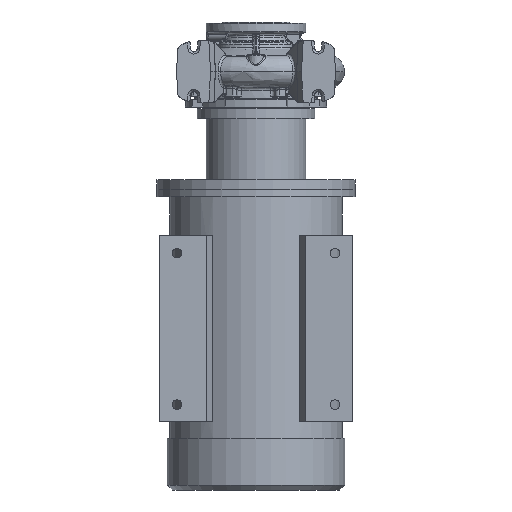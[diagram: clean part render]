
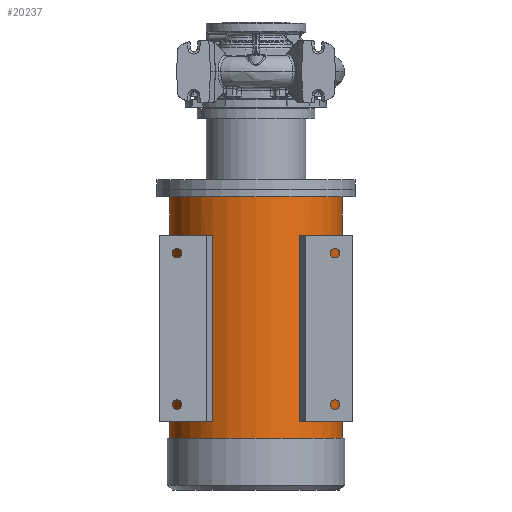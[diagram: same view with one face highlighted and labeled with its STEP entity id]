
A CAD part, front view. The second image highlights one B-rep face of the part: STEP entity #20237.
In plain terms, the highlighted cylindrical face has radius 173.5 mm (diameter 347 mm), a partial arc.
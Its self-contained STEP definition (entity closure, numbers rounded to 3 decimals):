
#280 = DIRECTION ( 'NONE',  ( 0., 0., -1. ) ) ;
#2923 = ORIENTED_EDGE ( 'NONE', *, *, #16908, .F. ) ;
#3602 = FACE_OUTER_BOUND ( 'NONE', #13058, .T. ) ;
#4266 = DIRECTION ( 'NONE',  ( 0., 0., 1. ) ) ;
#5671 = CARTESIAN_POINT ( 'NONE',  ( 0., 0., -252.3 ) ) ;
#6326 = EDGE_CURVE ( 'NONE', #52792, #50794, #20791, .T. ) ;
#8549 = LINE ( 'NONE', #58391, #39035 ) ;
#9665 = DIRECTION ( 'NONE',  ( 1., 0., 0. ) ) ;
#9723 = CARTESIAN_POINT ( 'NONE',  ( 173.5, 0., -252.3 ) ) ;
#9915 = DIRECTION ( 'NONE',  ( 1., 0., 0. ) ) ;
#10747 = CIRCLE ( 'NONE', #18892, 173.5 ) ;
#10784 = VERTEX_POINT ( 'NONE', #68697 ) ;
#13034 = DIRECTION ( 'NONE',  ( 0., 0., 1. ) ) ;
#13058 = EDGE_LOOP ( 'NONE', ( #47611, #42909, #36343, #55787 ) ) ;
#13985 = EDGE_CURVE ( 'NONE', #51670, #72460, #43267, .T. ) ;
#14445 = CARTESIAN_POINT ( 'NONE',  ( -173.5, 0., -842.3 ) ) ;
#14474 = ORIENTED_EDGE ( 'NONE', *, *, #49222, .F. ) ;
#14818 = ORIENTED_EDGE ( 'NONE', *, *, #32215, .T. ) ;
#15104 = VECTOR ( 'NONE', #69400, 1000. ) ;
#15593 = DIRECTION ( 'NONE',  ( 0., 0., 1. ) ) ;
#15949 = EDGE_LOOP ( 'NONE', ( #14474, #69525, #2923, #58532 ) ) ;
#16172 = DIRECTION ( 'NONE',  ( 0., 0., -1. ) ) ;
#16908 = EDGE_CURVE ( 'NONE', #50794, #10784, #36966, .T. ) ;
#17156 = DIRECTION ( 'NONE',  ( -1., 0., 0. ) ) ;
#17902 = CARTESIAN_POINT ( 'NONE',  ( 87.271, -149.953, -705.3 ) ) ;
#18892 = AXIS2_PLACEMENT_3D ( 'NONE', #36659, #25212, #58301 ) ;
#20237 = ADVANCED_FACE ( 'NONE', ( #3602, #33296, #57897 ), #23687, .T. ) ;
#20791 = CIRCLE ( 'NONE', #67014, 173.5 ) ;
#22668 = AXIS2_PLACEMENT_3D ( 'NONE', #61012, #4266, #27437 ) ;
#23687 = CYLINDRICAL_SURFACE ( 'NONE', #42607, 173.5 ) ;
#24730 = VERTEX_POINT ( 'NONE', #39772 ) ;
#24862 = LINE ( 'NONE', #14445, #72126 ) ;
#25212 = DIRECTION ( 'NONE',  ( 0., 0., 1. ) ) ;
#25485 = VERTEX_POINT ( 'NONE', #31464 ) ;
#26507 = CARTESIAN_POINT ( 'NONE',  ( 0., 0., -738.3 ) ) ;
#26620 = EDGE_LOOP ( 'NONE', ( #50871, #72171, #39384, #14818 ) ) ;
#26998 = DIRECTION ( 'NONE',  ( 0., 0., -1. ) ) ;
#27437 = DIRECTION ( 'NONE',  ( -1., 0., 0. ) ) ;
#27464 = DIRECTION ( 'NONE',  ( 0., 0., -1. ) ) ;
#28148 = CARTESIAN_POINT ( 'NONE',  ( 100.73, -141.265, -705.3 ) ) ;
#30337 = VERTEX_POINT ( 'NONE', #59364 ) ;
#30395 = EDGE_CURVE ( 'NONE', #59970, #51870, #43332, .T. ) ;
#30417 = CARTESIAN_POINT ( 'NONE',  ( 87.271, -149.953, -842.3 ) ) ;
#31399 = VECTOR ( 'NONE', #13034, 1000. ) ;
#31464 = CARTESIAN_POINT ( 'NONE',  ( 100.73, -141.265, -330.3 ) ) ;
#32215 = EDGE_CURVE ( 'NONE', #25485, #51870, #8549, .T. ) ;
#33296 = FACE_BOUND ( 'NONE', #26620, .T. ) ;
#33888 = CARTESIAN_POINT ( 'NONE',  ( 173.5, 0., -738.3 ) ) ;
#36264 = DIRECTION ( 'NONE',  ( 0., 0., -1. ) ) ;
#36343 = ORIENTED_EDGE ( 'NONE', *, *, #69074, .T. ) ;
#36659 = CARTESIAN_POINT ( 'NONE',  ( 0., 0., -330.3 ) ) ;
#36966 = LINE ( 'NONE', #42373, #15104 ) ;
#39035 = VECTOR ( 'NONE', #36264, 1000. ) ;
#39182 = EDGE_CURVE ( 'NONE', #59970, #24730, #69959, .T. ) ;
#39384 = ORIENTED_EDGE ( 'NONE', *, *, #71041, .T. ) ;
#39772 = CARTESIAN_POINT ( 'NONE',  ( 87.271, -149.953, -330.3 ) ) ;
#42373 = CARTESIAN_POINT ( 'NONE',  ( -100.73, -141.265, -842.3 ) ) ;
#42607 = AXIS2_PLACEMENT_3D ( 'NONE', #47181, #48693, #54620 ) ;
#42840 = DIRECTION ( 'NONE',  ( -1., 0., 0. ) ) ;
#42909 = ORIENTED_EDGE ( 'NONE', *, *, #13985, .T. ) ;
#43267 = CIRCLE ( 'NONE', #60611, 173.5 ) ;
#43280 = EDGE_CURVE ( 'NONE', #30337, #10784, #51219, .T. ) ;
#43332 = CIRCLE ( 'NONE', #22668, 173.5 ) ;
#47181 = CARTESIAN_POINT ( 'NONE',  ( 0., 0., -842.3 ) ) ;
#47308 = VERTEX_POINT ( 'NONE', #33888 ) ;
#47611 = ORIENTED_EDGE ( 'NONE', *, *, #57624, .F. ) ;
#47844 = VECTOR ( 'NONE', #15593, 1000. ) ;
#48056 = AXIS2_PLACEMENT_3D ( 'NONE', #55637, #27464, #9915 ) ;
#48693 = DIRECTION ( 'NONE',  ( 0., 0., -1. ) ) ;
#49013 = CARTESIAN_POINT ( 'NONE',  ( 0., 0., -330.3 ) ) ;
#49222 = EDGE_CURVE ( 'NONE', #30337, #52792, #68072, .T. ) ;
#50275 = VECTOR ( 'NONE', #16172, 1000. ) ;
#50794 = VERTEX_POINT ( 'NONE', #72019 ) ;
#50871 = ORIENTED_EDGE ( 'NONE', *, *, #30395, .F. ) ;
#51219 = CIRCLE ( 'NONE', #48056, 173.5 ) ;
#51670 = VERTEX_POINT ( 'NONE', #9723 ) ;
#51870 = VERTEX_POINT ( 'NONE', #28148 ) ;
#52621 = CARTESIAN_POINT ( 'NONE',  ( -173.5, 0., -252.3 ) ) ;
#52792 = VERTEX_POINT ( 'NONE', #66922 ) ;
#54620 = DIRECTION ( 'NONE',  ( -1., 0., 0. ) ) ;
#55637 = CARTESIAN_POINT ( 'NONE',  ( 0., 0., -705.3 ) ) ;
#55787 = ORIENTED_EDGE ( 'NONE', *, *, #70613, .F. ) ;
#57624 = EDGE_CURVE ( 'NONE', #51670, #47308, #72224, .T. ) ;
#57897 = FACE_BOUND ( 'NONE', #15949, .T. ) ;
#58301 = DIRECTION ( 'NONE',  ( -1., 0., 0. ) ) ;
#58391 = CARTESIAN_POINT ( 'NONE',  ( 100.73, -141.265, -842.3 ) ) ;
#58532 = ORIENTED_EDGE ( 'NONE', *, *, #6326, .F. ) ;
#59111 = DIRECTION ( 'NONE',  ( 0., 0., -1. ) ) ;
#59257 = DIRECTION ( 'NONE',  ( 0., 0., -1. ) ) ;
#59364 = CARTESIAN_POINT ( 'NONE',  ( -87.271, -149.953, -705.3 ) ) ;
#59970 = VERTEX_POINT ( 'NONE', #17902 ) ;
#60611 = AXIS2_PLACEMENT_3D ( 'NONE', #5671, #280, #17156 ) ;
#60995 = CARTESIAN_POINT ( 'NONE',  ( 173.5, 0., -842.3 ) ) ;
#61012 = CARTESIAN_POINT ( 'NONE',  ( 0., 0., -705.3 ) ) ;
#62485 = VERTEX_POINT ( 'NONE', #62767 ) ;
#62767 = CARTESIAN_POINT ( 'NONE',  ( -173.5, 0., -738.3 ) ) ;
#66922 = CARTESIAN_POINT ( 'NONE',  ( -87.271, -149.953, -330.3 ) ) ;
#67014 = AXIS2_PLACEMENT_3D ( 'NONE', #49013, #26998, #9665 ) ;
#68072 = LINE ( 'NONE', #71634, #47844 ) ;
#68697 = CARTESIAN_POINT ( 'NONE',  ( -100.73, -141.265, -705.3 ) ) ;
#69074 = EDGE_CURVE ( 'NONE', #72460, #62485, #24862, .T. ) ;
#69400 = DIRECTION ( 'NONE',  ( 0., 0., -1. ) ) ;
#69434 = CIRCLE ( 'NONE', #70068, 173.5 ) ;
#69525 = ORIENTED_EDGE ( 'NONE', *, *, #43280, .T. ) ;
#69959 = LINE ( 'NONE', #30417, #31399 ) ;
#70068 = AXIS2_PLACEMENT_3D ( 'NONE', #26507, #59111, #42840 ) ;
#70613 = EDGE_CURVE ( 'NONE', #47308, #62485, #69434, .T. ) ;
#71041 = EDGE_CURVE ( 'NONE', #24730, #25485, #10747, .T. ) ;
#71634 = CARTESIAN_POINT ( 'NONE',  ( -87.271, -149.953, -842.3 ) ) ;
#72019 = CARTESIAN_POINT ( 'NONE',  ( -100.73, -141.265, -330.3 ) ) ;
#72126 = VECTOR ( 'NONE', #59257, 1000. ) ;
#72171 = ORIENTED_EDGE ( 'NONE', *, *, #39182, .T. ) ;
#72224 = LINE ( 'NONE', #60995, #50275 ) ;
#72460 = VERTEX_POINT ( 'NONE', #52621 ) ;
